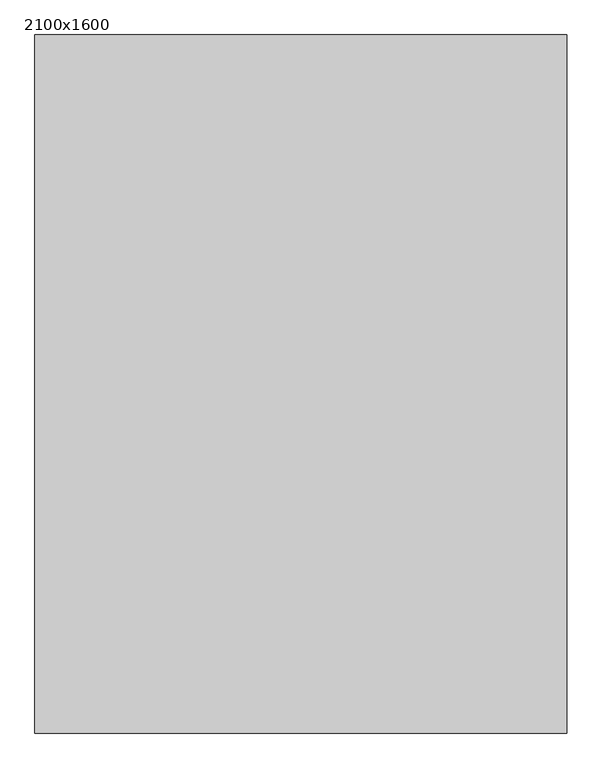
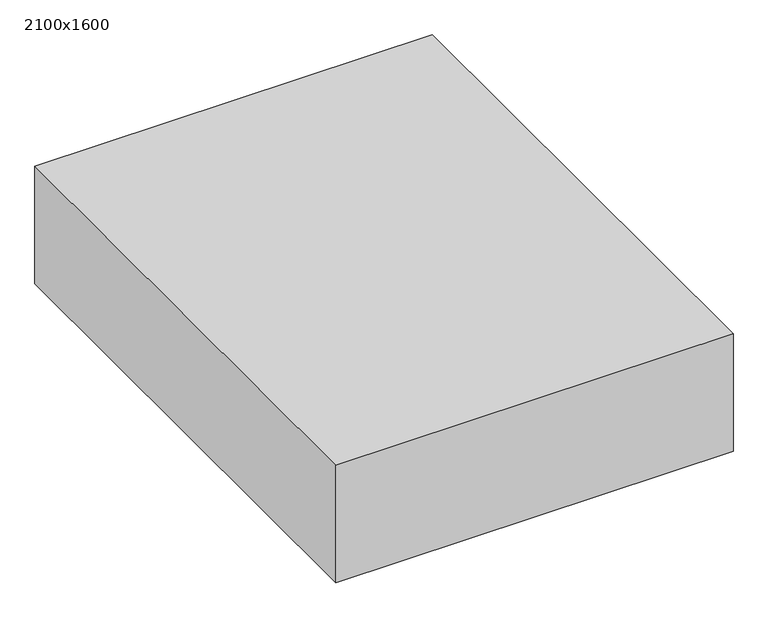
"""IFC4 building model written with IfcOpenShell, lengths in millimetres: furniture geometry, Fu_кровать x2_LEG : 2100x1600."""

from ifc_helpers import new_model, si_unit, origin, origin_with_axes, place, context, project, spatial, polyline, outline, extrude, source, transform, mapped, element, save


def furniture_2100x1600_cdc592ea(model_context):
    return source(origin(), model_context, "Body", "SweptSolid", [
        extrude(outline(polyline([(800.0, 815.5704918), (800.0, -1284.4295082), (-800.0, -1284.4295082), (-800.0, 815.5704918), (800.0, 815.5704918)])), origin_with_axes(), (0.0, 0.0, 1.0), 500.0),
    ])


if __name__ == "__main__":
    model = new_model("IFC4")
    model_context = context("Model", 3, world=origin())
    ifc_project = project(units=[si_unit("LENGTHUNIT", "METRE", prefix="MILLI")], contexts=[model_context])
    site = spatial("IfcSite", under=ifc_project)
    building = spatial("IfcBuilding", under=site)
    placement = place(None, origin())
    furniture_2100x1600_shape = furniture_2100x1600_cdc592ea(model_context)
    element("IfcFurniture", 1, ObjectType="Fu_кровать x2_LEG : 2100x1600", at=placement, inside=building, context=model_context, shape_type="MappedRepresentation", body=[
        mapped(furniture_2100x1600_shape, transform((0.0, 0.0, 0.0), x_axis=(1.0, 0.0, 0.0), y_axis=(0.0, 1.0, 0.0), z_axis=(0.0, 0.0, 1.0))),
    ])
    save(model, "model.ifc")
